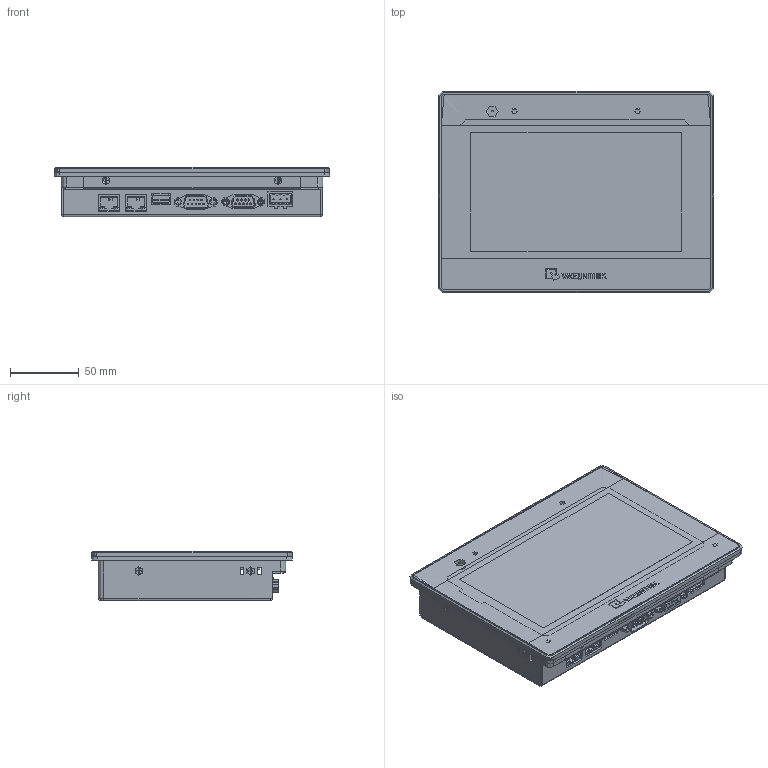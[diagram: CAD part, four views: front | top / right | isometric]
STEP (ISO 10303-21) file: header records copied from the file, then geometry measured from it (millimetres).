
FILE_DESCRIPTION (( 'STEP AP214' ), '1' );
FILE_NAME ('cMT3072XHT_NEW.STEP', '2023-01-17T22:12:54', ( '' ), ( '' ), 'SwSTEP 2.0', 'SolidWorks 2019', '' );
FILE_SCHEMA (( 'AUTOMOTIVE_DESIGN' ));
Length unit declared in the file: inch
Products named in the file (1): cMT3072XHT_NEW
Bounding box: 200.4 x 146.5 x 36 mm (x, y, z)
Topology: 0 solids, 102 shells, 860 faces, 3313 edges, 2597 vertices
Faces by surface type: plane 565, cylinder 204, cone 46, bspline 42, torus 3
Entity records: 45536 total; most frequent: CARTESIAN_POINT 17615, ORIENTED_EDGE 5504, DIRECTION 4704, EDGE_CURVE 3319, VERTEX_POINT 2595, VECTOR 2120, LINE 2120, AXIS2_PLACEMENT_3D 1292
